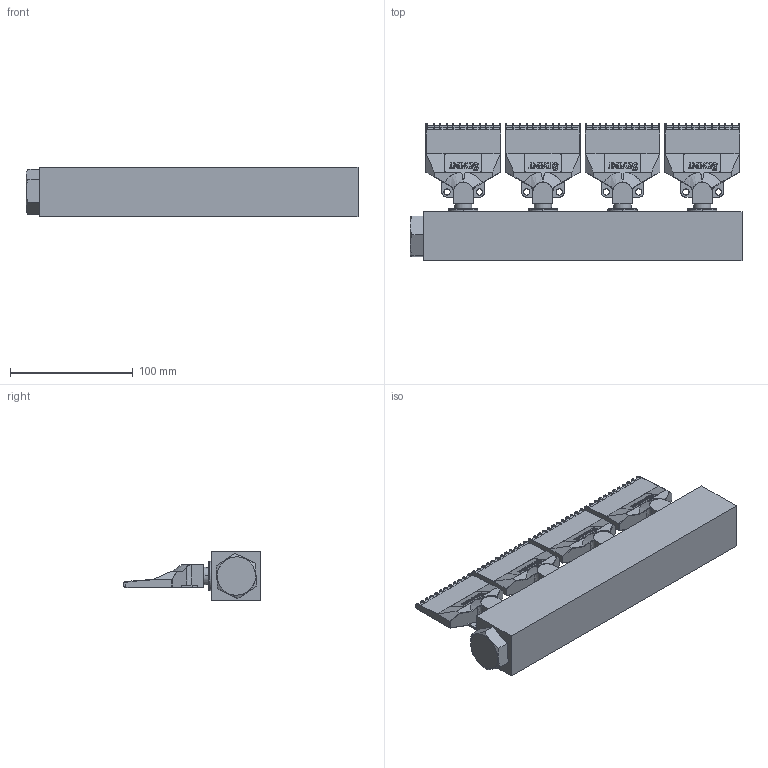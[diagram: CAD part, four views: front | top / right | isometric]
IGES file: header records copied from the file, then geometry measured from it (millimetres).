
Start section: SolidWorks IGES file using analytic representation for surfaces
Global section: file name: G:\Silvent\Ritningar\Övrigt\IGES\Silvent 374.IGS; native system: SolidWorks 2006 by SolidWorks Corporation; preprocessor: SolidWorks 2006 by SolidWorks Corporation; author: SilvRaTi; date: 061220.090308; units: millimetre
Bounding box: 271 x 112.5 x 40 mm (x, y, z)
Surface area: 124982.3 mm2 (no closed solid volume)
Topology: 0 solids, 0 shells, 1304 faces, 11774 edges, 11766 vertices
Faces by surface type: bspline 738, revolution 566
